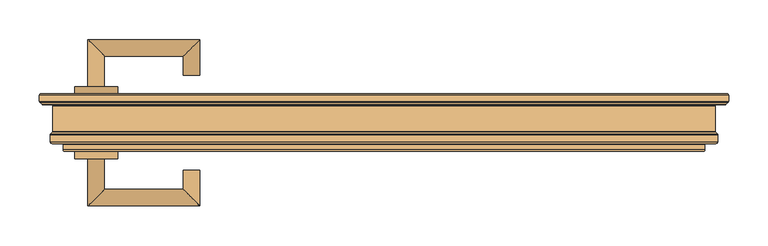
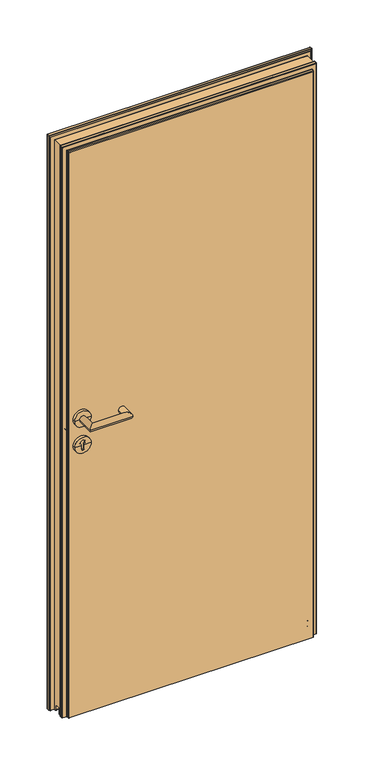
"""IFC4 building model written with IfcOpenShell, lengths in millimetres: door geometry, Peneder_HIGHLINEflat_1-flügelig_V2019 : Zargentyp - 05 - U DN."""

from ifc_helpers import new_model, si_unit, frame, origin, place, context, project, spatial, polyline, circle_curve, ellipse_curve, source, transform, mapped, element, save
from ifc_brep_helpers import plane_surface, cylinder_surface, revolved_surface, advanced_brep


def door_01702f04(model_context):
    return source(origin(), model_context, "Body", "AdvancedBrep", [
        advanced_brep(
        [(-375.5, 56.0, 1050.0), (-354.5, 56.0, 1050.0), (-375.5, -4.0, 1050.0), (-354.5, 17.0, 1050.0), (-233.5, -4.0, 1050.0), (-254.5, 17.0, 1050.0), (-233.5, 41.0, 1050.0), (-254.5, 41.0, 1050.0)],
        [
            (0, 1, circle_curve(frame((-365.0, 56.0, 1050.0), z_axis=(0.0, 1.0, 0.0), x_axis=(1.0, 0.0, 0.0)), 10.5)),
            (1, 0, circle_curve(frame((-365.0, 56.0, 1050.0), z_axis=(0.0, 1.0, 0.0), x_axis=(1.0, 0.0, 0.0)), 10.5)),
            (0, 2),
            (2, 3, ellipse_curve(frame((-365.0, 6.5, 1050.0), z_axis=(-0.7071067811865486, 0.7071067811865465, 0.0), x_axis=(0.7071067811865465, 0.7071067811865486, 0.0)), 14.8492424, 10.5)),
            (3, 1),
            (3, 2, ellipse_curve(frame((-365.0, 6.5, 1050.0), z_axis=(-0.7071067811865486, 0.7071067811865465, 0.0), x_axis=(0.7071067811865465, 0.7071067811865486, 0.0)), 14.8492424, 10.5)),
            (2, 4),
            (4, 5, ellipse_curve(frame((-244.0, 6.5, 1050.0), z_axis=(-0.7071067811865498, -0.7071067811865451, 0.0), x_axis=(-0.7071067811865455, 0.7071067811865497, 0.0)), 14.8492424, 10.5)),
            (5, 3),
            (5, 4, ellipse_curve(frame((-244.0, 6.5, 1050.0), z_axis=(-0.7071067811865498, -0.7071067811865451, 0.0), x_axis=(-0.7071067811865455, 0.7071067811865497, 0.0)), 14.8492424, 10.5)),
            (6, 7, circle_curve(frame((-244.0, 41.0, 1050.0), z_axis=(0.0, 1.0, 0.0), x_axis=(-1.0, 0.0, 0.0)), 10.5)),
            (7, 6, circle_curve(frame((-244.0, 41.0, 1050.0), z_axis=(0.0, 1.0, 0.0), x_axis=(-1.0, 0.0, 0.0)), 10.5)),
            (4, 6),
            (7, 5),
        ],
        [
            plane_surface(frame((-365.0, 56.0, 1050.0), z_axis=(0.0, 1.0, 0.0), x_axis=(0.0, 0.0, 1.0))),
            cylinder_surface(frame((-365.0, 56.0, 1050.0), z_axis=(0.0, 1.0, 0.0), x_axis=(1.0, 0.0, 0.0)), 10.5),
            cylinder_surface(frame((-365.0, 6.5, 1050.0), z_axis=(-1.0, 0.0, 0.0), x_axis=(0.0, 1.0, 0.0)), 10.5),
            plane_surface(frame((-244.0, 41.0, 1050.0), z_axis=(0.0, 1.0, 0.0), x_axis=(0.0, 0.0, 1.0))),
            cylinder_surface(frame((-244.0, 6.5, 1050.0), z_axis=(0.0, -1.0, 0.0), x_axis=(-1.0, 0.0, 0.0)), 10.5),
        ],
        [
            (0, [[1, 2]]),
            (1, [[-1, 3, 4, 5]]),
            (1, [[-2, -5, 6, -3]]),
            (2, [[-4, 7, 8, 9]]),
            (2, [[-6, -9, 10, -7]]),
            (3, [[11, 12]]),
            (4, [[-8, 13, -12, 14]]),
            (4, [[-10, -14, -11, -13]]),
        ],
    ),
        advanced_brep(
        [(-337.5, 56.0, 1050.0), (-392.5, 56.0, 1050.0), (-392.5, 65.0, 1050.0), (-337.5, 65.0, 1050.0), (-365.0, 56.0, 1050.0), (-365.0, 65.0, 1050.0)],
        [
            (0, 1, circle_curve(frame((-365.0, 56.0, 1050.0), z_axis=(0.0, 1.0, 0.0), x_axis=(-1.0, 0.0, 0.0)), 27.5)),
            (1, 2),
            (2, 3, circle_curve(frame((-365.0, 65.0, 1050.0), z_axis=(0.0, -1.0, 0.0), x_axis=(-1.0, 0.0, 0.0)), 27.5)),
            (3, 0),
            (1, 0, circle_curve(frame((-365.0, 56.0, 1050.0), z_axis=(0.0, 1.0, 0.0), x_axis=(-1.0, 0.0, 0.0)), 27.5)),
            (3, 2, circle_curve(frame((-365.0, 65.0, 1050.0), z_axis=(0.0, -1.0, 0.0), x_axis=(-1.0, 0.0, 0.0)), 27.5)),
            (4, 1),
            (0, 4),
            (2, 5),
            (5, 3),
        ],
        [
            cylinder_surface(frame((-365.0, 82.7607135, 1050.0), z_axis=(0.0, -1.0, 0.0), x_axis=(-1.0, 0.0, 0.0)), 27.5),
            plane_surface(frame((-365.0, 56.0, 1050.0), z_axis=(0.0, -1.0, 0.0), x_axis=(-1.0, 0.0, 0.0))),
            plane_surface(frame((-365.0, 65.0, 1050.0), z_axis=(0.0, 1.0, 0.0), x_axis=(-1.0, 0.0, 0.0))),
        ],
        [
            (0, [[1, 2, 3, 4]]),
            (0, [[5, -4, 6, -2]]),
            (1, [[7, -1, 8]]),
            (1, [[-8, -5, -7]]),
            (2, [[-3, 9, 10]]),
            (2, [[-6, -10, -9]]),
        ],
    ),
        advanced_brep(
        [(-337.5, 56.0, 958.0), (-392.5, 56.0, 958.0), (-392.5, 65.0, 958.0), (-337.5, 65.0, 958.0), (-360.0, 56.0, 958.0), (-360.0, 56.0, 945.8645067), (-370.0, 56.0, 945.8645067), (-370.0, 56.0, 958.0), (-370.0, 56.0, 960.8645067), (-360.0, 56.0, 960.8645067), (-365.0, 65.0, 958.0), (-370.0, 62.0, 945.8645067), (-360.0, 62.0, 945.8645067), (-360.0, 62.0, 960.8645067), (-370.0, 62.0, 960.8645067)],
        [
            (0, 1, circle_curve(frame((-365.0, 56.0, 958.0), z_axis=(0.0, 1.0, 0.0), x_axis=(-1.0, 0.0, 0.0)), 27.5)),
            (1, 2),
            (2, 3, circle_curve(frame((-365.0, 65.0, 958.0), z_axis=(0.0, -1.0, 0.0), x_axis=(-1.0, 0.0, 0.0)), 27.5)),
            (3, 0),
            (1, 0, circle_curve(frame((-365.0, 56.0, 958.0), z_axis=(0.0, 1.0, 0.0), x_axis=(-1.0, 0.0, 0.0)), 27.5)),
            (3, 2, circle_curve(frame((-365.0, 65.0, 958.0), z_axis=(0.0, -1.0, 0.0), x_axis=(-1.0, 0.0, 0.0)), 27.5)),
            (0, 4),
            (4, 5),
            (5, 6, circle_curve(frame((-365.0, 56.0, 945.8645067), z_axis=(0.0, 1.0, 0.0), x_axis=(-1.0, 0.0, 0.0)), 5.0)),
            (6, 7),
            (7, 1),
            (7, 8),
            (8, 9, circle_curve(frame((-365.0, 56.0, 967.690169), z_axis=(0.0, 1.0, 0.0), x_axis=(-1.0, 0.0, 0.0)), 8.4610677)),
            (9, 4),
            (2, 10),
            (10, 3),
            (11, 12, circle_curve(frame((-365.0, 62.0, 945.8645067), z_axis=(0.0, -1.0, 0.0), x_axis=(-1.0, 0.0, 0.0)), 5.0)),
            (12, 13),
            (13, 14, circle_curve(frame((-365.0, 62.0, 967.690169), z_axis=(0.0, -1.0, 0.0), x_axis=(-1.0, 0.0, 0.0)), 8.4610677)),
            (14, 11),
            (11, 6),
            (5, 12),
            (9, 13),
            (8, 14),
        ],
        [
            cylinder_surface(frame((-365.0, 72.1832023, 958.0), z_axis=(0.0, -1.0, 0.0), x_axis=(-1.0, 0.0, 0.0)), 27.5),
            plane_surface(frame((-365.0, 56.0, 958.0), z_axis=(0.0, -1.0, 0.0), x_axis=(-1.0, 0.0, 0.0))),
            plane_surface(frame((-365.0, 65.0, 958.0), z_axis=(0.0, 1.0, 0.0), x_axis=(-1.0, 0.0, 0.0))),
            plane_surface(frame((-370.0, 62.0, 960.8645067), z_axis=(0.0, -1.0, 0.0), x_axis=(0.0, 0.0, 1.0))),
            revolved_surface(polyline([(-370.0, 62.0, 945.8645067), (-370.0, 56.0, 945.8645067)]), (-365.0, 52.0, 945.8645067), (0.0, 1.0, 0.0)),
            plane_surface(frame((-360.0, 62.0, 960.8645067), z_axis=(-1.0, 0.0, 0.0), x_axis=(0.0, -1.0, 0.0))),
            revolved_surface(polyline([(-373.4610677, 62.0, 967.690169), (-373.4610677, 56.0, 967.690169)]), (-365.0, 52.0, 967.690169), (0.0, 1.0, 0.0)),
            plane_surface(frame((-370.0, 62.0, 945.8645067), z_axis=(1.0, 0.0, 0.0), x_axis=(0.0, -1.0, 0.0))),
        ],
        [
            (0, [[1, 2, 3, 4]]),
            (0, [[-2, 5, -4, 6]]),
            (1, [[-1, 7, 8, 9, 10, 11]]),
            (1, [[-5, -11, 12, 13, 14, -7]]),
            (2, [[-3, 15, 16]]),
            (2, [[-6, -16, -15]]),
            (3, [[17, 18, 19, 20]]),
            (4, [[-17, 21, -9, 22]]),
            (5, [[-18, -22, -8, -14, 23]]),
            (6, [[-19, -23, -13, 24]]),
            (7, [[-20, -24, -12, -10, -21]]),
        ],
    ),
        advanced_brep(
        [(-375.5, 147.0, 1050.0), (-354.5, 147.0, 1050.0), (-354.5, 186.0, 1050.0), (-375.5, 207.0, 1050.0), (-254.5, 186.0, 1050.0), (-233.5, 207.0, 1050.0), (-233.5, 162.0, 1050.0), (-254.5, 162.0, 1050.0)],
        [
            (0, 1, circle_curve(frame((-365.0, 147.0, 1050.0), z_axis=(0.0, -1.0, 0.0), x_axis=(1.0, 0.0, 0.0)), 10.5)),
            (1, 0, circle_curve(frame((-365.0, 147.0, 1050.0), z_axis=(0.0, -1.0, 0.0), x_axis=(1.0, 0.0, 0.0)), 10.5)),
            (1, 2),
            (2, 3, ellipse_curve(frame((-365.0, 196.5, 1050.0), z_axis=(-0.7071067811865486, -0.7071067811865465, 0.0), x_axis=(0.7071067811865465, -0.7071067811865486, 0.0)), 14.8492424, 10.5)),
            (3, 0),
            (3, 2, ellipse_curve(frame((-365.0, 196.5, 1050.0), z_axis=(-0.7071067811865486, -0.7071067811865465, 0.0), x_axis=(0.7071067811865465, -0.7071067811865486, 0.0)), 14.8492424, 10.5)),
            (2, 4),
            (4, 5, ellipse_curve(frame((-244.0, 196.5, 1050.0), z_axis=(-0.7071067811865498, 0.7071067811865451, 0.0), x_axis=(-0.7071067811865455, -0.7071067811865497, 0.0)), 14.8492424, 10.5)),
            (5, 3),
            (5, 4, ellipse_curve(frame((-244.0, 196.5, 1050.0), z_axis=(-0.7071067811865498, 0.7071067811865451, 0.0), x_axis=(-0.7071067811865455, -0.7071067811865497, 0.0)), 14.8492424, 10.5)),
            (6, 7, circle_curve(frame((-244.0, 162.0, 1050.0), z_axis=(0.0, -1.0, 0.0), x_axis=(-1.0, 0.0, 0.0)), 10.5)),
            (7, 6, circle_curve(frame((-244.0, 162.0, 1050.0), z_axis=(0.0, -1.0, 0.0), x_axis=(-1.0, 0.0, 0.0)), 10.5)),
            (4, 7),
            (6, 5),
        ],
        [
            plane_surface(frame((-365.0, 147.0, 1050.0), z_axis=(0.0, -1.0, 0.0), x_axis=(0.0, 0.0, 1.0))),
            cylinder_surface(frame((-365.0, 147.0, 1050.0), z_axis=(0.0, -1.0, 0.0), x_axis=(1.0, 0.0, 0.0)), 10.5),
            cylinder_surface(frame((-365.0, 196.5, 1050.0), z_axis=(-1.0, 0.0, 0.0), x_axis=(0.0, -1.0, 0.0)), 10.5),
            plane_surface(frame((-244.0, 162.0, 1050.0), z_axis=(0.0, -1.0, 0.0), x_axis=(0.0, 0.0, 1.0))),
            cylinder_surface(frame((-244.0, 196.5, 1050.0), z_axis=(0.0, 1.0, 0.0), x_axis=(-1.0, 0.0, 0.0)), 10.5),
        ],
        [
            (0, [[1, 2]]),
            (1, [[3, 4, 5, -2]]),
            (1, [[-5, 6, -3, -1]]),
            (2, [[7, 8, 9, -4]]),
            (2, [[-9, 10, -7, -6]]),
            (3, [[11, 12]]),
            (4, [[13, -11, 14, -8]]),
            (4, [[-14, -12, -13, -10]]),
        ],
    ),
        advanced_brep(
        [(-337.5, 147.0, 1050.0), (-337.5, 138.0, 1050.0), (-392.5, 138.0, 1050.0), (-392.5, 147.0, 1050.0), (-365.0, 147.0, 1050.0), (-365.0, 138.0, 1050.0)],
        [
            (0, 1),
            (1, 2, circle_curve(frame((-365.0, 138.0, 1050.0), z_axis=(0.0, 1.0, 0.0), x_axis=(-1.0, 0.0, 0.0)), 27.5)),
            (2, 3),
            (3, 0, circle_curve(frame((-365.0, 147.0, 1050.0), z_axis=(0.0, -1.0, 0.0), x_axis=(-1.0, 0.0, 0.0)), 27.5)),
            (2, 1, circle_curve(frame((-365.0, 138.0, 1050.0), z_axis=(0.0, 1.0, 0.0), x_axis=(-1.0, 0.0, 0.0)), 27.5)),
            (0, 3, circle_curve(frame((-365.0, 147.0, 1050.0), z_axis=(0.0, -1.0, 0.0), x_axis=(-1.0, 0.0, 0.0)), 27.5)),
            (4, 0),
            (3, 4),
            (1, 5),
            (5, 2),
        ],
        [
            cylinder_surface(frame((-365.0, 120.2392865, 1050.0), z_axis=(0.0, 1.0, 0.0), x_axis=(-1.0, 0.0, 0.0)), 27.5),
            plane_surface(frame((-365.0, 147.0, 1050.0), z_axis=(0.0, 1.0, 0.0), x_axis=(-1.0, 0.0, 0.0))),
            plane_surface(frame((-365.0, 138.0, 1050.0), z_axis=(0.0, -1.0, 0.0), x_axis=(-1.0, 0.0, 0.0))),
        ],
        [
            (0, [[1, 2, 3, 4]]),
            (0, [[-3, 5, -1, 6]]),
            (1, [[7, -4, 8]]),
            (1, [[-8, -6, -7]]),
            (2, [[9, 10, -2]]),
            (2, [[-10, -9, -5]]),
        ],
    ),
        advanced_brep(
        [(-337.5, 147.0, 958.0), (-337.5, 138.0, 958.0), (-392.5, 138.0, 958.0), (-392.5, 147.0, 958.0), (-370.0, 147.0, 958.0), (-370.0, 147.0, 945.8645067), (-360.0, 147.0, 945.8645067), (-360.0, 147.0, 958.0), (-360.0, 147.0, 960.8645067), (-370.0, 147.0, 960.8645067), (-365.0, 138.0, 958.0), (-370.0, 141.0, 945.8645067), (-370.0, 141.0, 960.8645067), (-360.0, 141.0, 960.8645067), (-360.0, 141.0, 945.8645067)],
        [
            (0, 1),
            (1, 2, circle_curve(frame((-365.0, 138.0, 958.0), z_axis=(0.0, 1.0, 0.0), x_axis=(-1.0, 0.0, 0.0)), 27.5)),
            (2, 3),
            (3, 0, circle_curve(frame((-365.0, 147.0, 958.0), z_axis=(0.0, -1.0, 0.0), x_axis=(-1.0, 0.0, 0.0)), 27.5)),
            (2, 1, circle_curve(frame((-365.0, 138.0, 958.0), z_axis=(0.0, 1.0, 0.0), x_axis=(-1.0, 0.0, 0.0)), 27.5)),
            (0, 3, circle_curve(frame((-365.0, 147.0, 958.0), z_axis=(0.0, -1.0, 0.0), x_axis=(-1.0, 0.0, 0.0)), 27.5)),
            (3, 4),
            (4, 5),
            (5, 6, circle_curve(frame((-365.0, 147.0, 945.8645067), z_axis=(0.0, -1.0, 0.0), x_axis=(-1.0, 0.0, 0.0)), 5.0)),
            (6, 7),
            (7, 0),
            (7, 8),
            (8, 9, circle_curve(frame((-365.0, 147.0, 967.690169), z_axis=(0.0, -1.0, 0.0), x_axis=(-1.0, 0.0, 0.0)), 8.4610677)),
            (9, 4),
            (1, 10),
            (10, 2),
            (11, 12),
            (12, 13, circle_curve(frame((-365.0, 141.0, 967.690169), z_axis=(0.0, 1.0, 0.0), x_axis=(-1.0, 0.0, 0.0)), 8.4610677)),
            (13, 14),
            (14, 11, circle_curve(frame((-365.0, 141.0, 945.8645067), z_axis=(0.0, 1.0, 0.0), x_axis=(-1.0, 0.0, 0.0)), 5.0)),
            (14, 6),
            (5, 11),
            (13, 8),
            (12, 9),
        ],
        [
            cylinder_surface(frame((-365.0, 130.8167977, 958.0), z_axis=(0.0, 1.0, 0.0), x_axis=(-1.0, 0.0, 0.0)), 27.5),
            plane_surface(frame((-365.0, 147.0, 958.0), z_axis=(0.0, 1.0, 0.0), x_axis=(-1.0, 0.0, 0.0))),
            plane_surface(frame((-365.0, 138.0, 958.0), z_axis=(0.0, -1.0, 0.0), x_axis=(-1.0, 0.0, 0.0))),
            plane_surface(frame((-370.0, 141.0, 960.8645067), z_axis=(0.0, 1.0, 0.0), x_axis=(0.0, 0.0, 1.0))),
            revolved_surface(polyline([(-370.0, 141.0, 945.8645067), (-370.0, 147.0, 945.8645067)]), (-365.0, 151.0, 945.8645067), (0.0, -1.0, 0.0)),
            plane_surface(frame((-360.0, 141.0, 960.8645067), z_axis=(-1.0, 0.0, 0.0), x_axis=(0.0, 1.0, 0.0))),
            revolved_surface(polyline([(-373.4610677, 141.0, 967.690169), (-373.4610677, 147.0, 967.690169)]), (-365.0, 151.0, 967.690169), (0.0, -1.0, 0.0)),
            plane_surface(frame((-370.0, 141.0, 945.8645067), z_axis=(1.0, 0.0, 0.0), x_axis=(0.0, 1.0, 0.0))),
        ],
        [
            (0, [[1, 2, 3, 4]]),
            (0, [[5, -1, 6, -3]]),
            (1, [[7, 8, 9, 10, 11, -4]]),
            (1, [[-11, 12, 13, 14, -7, -6]]),
            (2, [[15, 16, -2]]),
            (2, [[-16, -15, -5]]),
            (3, [[17, 18, 19, 20]]),
            (4, [[21, -9, 22, -20]]),
            (5, [[23, -12, -10, -21, -19]]),
            (6, [[24, -13, -23, -18]]),
            (7, [[-22, -8, -14, -24, -17]]),
        ],
    ),
        advanced_brep(
        [(405.0, 65.0, 10.0), (-405.0, 65.0, 10.0), (-407.0, 67.0, 10.0), (-407.0, 74.0, 10.0), (-408.0, 75.0, 10.0), (-421.0, 75.0, 10.0), (-423.0, 77.0, 10.0), (-423.0, 86.1715729, 10.0), (-422.4142136, 87.5857864, 10.0), (-420.2928932, 89.7071068, 10.0), (-420.0, 90.4142136, 10.0), (-420.0, 94.5, 10.0), (420.0, 94.5, 10.0), (420.0, 90.4142136, 10.0), (420.2928932, 89.7071068, 10.0), (422.4142136, 87.5857864, 10.0), (423.0, 86.1715729, 10.0), (423.0, 77.0, 10.0), (421.0, 75.0, 10.0), (408.0, 75.0, 10.0), (407.0, 74.0, 10.0), (407.0, 67.0, 10.0), (-437.0, 128.8284271, 10.0), (-437.0, 136.0, 10.0), (-435.0, 138.0, 10.0), (435.0, 138.0, 10.0), (437.0, 136.0, 10.0), (437.0, 128.8284271, 10.0), (436.4142136, 127.4142136, 10.0), (433.5857864, 124.5857864, 10.0), (432.1715729, 124.0, 10.0), (421.0, 124.0, 10.0), (420.0, 123.0, 10.0), (420.0, 119.5, 10.0), (-420.0, 119.5, 10.0), (-420.0, 123.0, 10.0), (-421.0, 124.0, 10.0), (-432.1715729, 124.0, 10.0), (-433.5857864, 124.5857864, 10.0), (-436.4142136, 127.4142136, 10.0), (405.0, 65.0, 1992.0), (-405.0, 65.0, 1992.0), (-407.0, 67.0, 1994.0), (-407.0, 74.0, 1994.0), (-408.0, 75.0, 1995.0), (408.0, 75.0, 1995.0), (421.0, 75.0, 2008.0), (-421.0, 75.0, 2008.0), (-423.0, 77.0, 2010.0), (-423.0, 86.1715729, 2010.0), (-422.4142136, 87.5857864, 2009.4142136), (-420.2928932, 89.7071068, 2007.2928932), (-420.0, 90.4142136, 2007.0), (-420.0, 123.0, 2007.0), (-420.0, 117.5, 12.0), (-420.0, 117.5, 29.5), (-420.0, 116.5, 30.5), (-420.0, 97.5, 30.5), (-420.0, 96.5, 29.5), (-420.0, 96.5, 12.0), (420.0, 96.5, 12.0), (420.0, 123.0, 2007.0), (420.0, 90.4142136, 2007.0), (420.0, 96.5, 29.5), (420.0, 97.5, 30.5), (420.0, 116.5, 30.5), (420.0, 117.5, 29.5), (420.0, 117.5, 12.0), (420.2928932, 89.7071068, 2007.2928932), (422.4142136, 87.5857864, 2009.4142136), (423.0, 86.1715729, 2010.0), (423.0, 77.0, 2010.0), (407.0, 74.0, 1994.0), (407.0, 67.0, 1994.0), (-437.0, 128.8284271, 2024.0), (-437.0, 136.0, 2024.0), (-435.0, 138.0, 2022.0), (435.0, 138.0, 2022.0), (437.0, 136.0, 2024.0), (437.0, 128.8284271, 2024.0), (436.4142136, 127.4142136, 2023.4142136), (433.5857864, 124.5857864, 2020.5857864), (432.1715729, 124.0, 2019.1715729), (-421.0, 124.0, 2008.0), (421.0, 124.0, 2008.0), (-432.1715729, 124.0, 2019.1715729), (-433.5857864, 124.5857864, 2020.5857864), (-436.4142136, 127.4142136, 2023.4142136)],
        [
            (0, 1),
            (1, 2, circle_curve(frame((-405.0, 67.0, 10.0), z_axis=(0.0, 0.0, -1.0), x_axis=(0.0, -1.0, 0.0)), 2.0)),
            (2, 3),
            (3, 4, circle_curve(frame((-408.0, 74.0, 10.0), z_axis=(0.0, 0.0, 1.0), x_axis=(1.0, 0.0, 0.0)), 1.0)),
            (4, 5),
            (5, 6, circle_curve(frame((-421.0, 77.0, 10.0), z_axis=(0.0, 0.0, -1.0), x_axis=(0.0, -1.0, 0.0)), 2.0)),
            (6, 7),
            (7, 8, circle_curve(frame((-421.0, 86.1715729, 10.0), z_axis=(0.0, 0.0, -1.0), x_axis=(-1.0, 0.0, 0.0)), 2.0)),
            (8, 9),
            (9, 10, circle_curve(frame((-421.0, 90.4142136, 10.0), z_axis=(0.0, 0.0, 1.0), x_axis=(0.7071067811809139, -0.7071067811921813, 0.0)), 1.0)),
            (10, 11),
            (11, 12),
            (12, 13),
            (13, 14, circle_curve(frame((421.0, 90.4142136, 10.0), z_axis=(0.0, 0.0, 1.0), x_axis=(-0.707106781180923, -0.7071067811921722, 0.0)), 1.0)),
            (14, 15),
            (15, 16, circle_curve(frame((421.0, 86.1715729, 10.0), z_axis=(0.0, 0.0, -1.0), x_axis=(1.0, 0.0, 0.0)), 2.0)),
            (16, 17),
            (17, 18, circle_curve(frame((421.0, 77.0, 10.0), z_axis=(0.0, 0.0, -1.0), x_axis=(0.0, -1.0, 0.0)), 2.0)),
            (18, 19),
            (19, 20, circle_curve(frame((408.0, 74.0, 10.0), z_axis=(0.0, 0.0, 1.0), x_axis=(-1.0, 0.0, 0.0)), 1.0)),
            (20, 21),
            (21, 0, circle_curve(frame((405.0, 67.0, 10.0), z_axis=(0.0, 0.0, -1.0), x_axis=(0.0, -1.0, 0.0)), 2.0)),
            (22, 23),
            (23, 24, circle_curve(frame((-435.0, 136.0, 10.0), z_axis=(0.0, 0.0, -1.0), x_axis=(-1.0, 0.0, 0.0)), 2.0)),
            (24, 25),
            (25, 26, circle_curve(frame((435.0, 136.0, 10.0), z_axis=(0.0, 0.0, -1.0), x_axis=(1.0, 0.0, 0.0)), 2.0)),
            (26, 27),
            (27, 28, circle_curve(frame((435.0, 128.8284271, 10.0), z_axis=(0.0, 0.0, -1.0), x_axis=(0.7071067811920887, -0.7071067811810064, 0.0)), 2.0)),
            (28, 29),
            (29, 30, circle_curve(frame((432.1715729, 126.0, 10.0), z_axis=(0.0, 0.0, -1.0), x_axis=(0.0, -1.0, 0.0)), 2.0)),
            (30, 31),
            (31, 32, circle_curve(frame((421.0, 123.0, 10.0), z_axis=(0.0, 0.0, 1.0), x_axis=(-1.0, 0.0, 0.0)), 1.0)),
            (32, 33),
            (33, 34),
            (34, 35),
            (35, 36, circle_curve(frame((-421.0, 123.0, 10.0), z_axis=(0.0, 0.0, 1.0), x_axis=(1.0, 0.0, 0.0)), 1.0)),
            (36, 37),
            (37, 38, circle_curve(frame((-432.1715729, 126.0, 10.0), z_axis=(0.0, 0.0, -1.0), x_axis=(0.0, -1.0, 0.0)), 2.0)),
            (38, 39),
            (39, 22, circle_curve(frame((-435.0, 128.8284271, 10.0), z_axis=(0.0, 0.0, -1.0), x_axis=(-0.7071067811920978, -0.7071067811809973, 0.0)), 2.0)),
            (0, 40),
            (40, 41),
            (41, 1),
            (41, 42, ellipse_curve(frame((-405.0, 67.0, 1992.0), z_axis=(-0.7071067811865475, 0.0, -0.7071067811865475), x_axis=(-0.7071067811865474, 0.0, 0.7071067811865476)), 2.8284271, 2.0)),
            (42, 2),
            (42, 43),
            (43, 3),
            (43, 44, ellipse_curve(frame((-408.0, 74.0, 1995.0), z_axis=(0.7071067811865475, 0.0, 0.7071067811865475), x_axis=(0.7071067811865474, 0.0, -0.7071067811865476)), 1.4142136, 1.0)),
            (44, 4),
            (44, 45),
            (45, 19),
            (18, 46),
            (46, 47),
            (47, 5),
            (47, 48, ellipse_curve(frame((-421.0, 77.0, 2008.0), z_axis=(-0.7071067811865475, 0.0, -0.7071067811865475), x_axis=(-0.7071067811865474, 0.0, 0.7071067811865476)), 2.8284271, 2.0)),
            (48, 6),
            (48, 49),
            (49, 7),
            (49, 50, ellipse_curve(frame((-421.0, 86.1715729, 2008.0), z_axis=(-0.7071067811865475, 0.0, -0.7071067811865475), x_axis=(-0.7071067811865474, 0.0, 0.7071067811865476)), 2.8284271, 2.0)),
            (50, 8),
            (50, 51),
            (51, 9),
            (51, 52, ellipse_curve(frame((-421.0, 90.4142136, 2008.0), z_axis=(0.7071067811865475, 0.0, 0.7071067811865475), x_axis=(0.7071067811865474, 0.0, -0.7071067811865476)), 1.4142136, 1.0)),
            (52, 10),
            (52, 53),
            (53, 35),
            (34, 54, circle_curve(frame((-420.0, 119.5, 12.0), z_axis=(-1.0, 0.0, 0.0), x_axis=(0.0, 1.0, 0.0)), 2.0)),
            (54, 55),
            (55, 56, circle_curve(frame((-420.0, 116.5, 29.5), z_axis=(1.0, 0.0, 0.0), x_axis=(0.0, 1.0, 0.0)), 1.0)),
            (56, 57),
            (57, 58, circle_curve(frame((-420.0, 97.5, 29.5), z_axis=(1.0, 0.0, 0.0), x_axis=(0.0, 1.0, 0.0)), 1.0)),
            (58, 59),
            (59, 11, circle_curve(frame((-420.0, 94.5, 12.0), z_axis=(-1.0, 0.0, 0.0), x_axis=(0.0, 1.0, 0.0)), 2.0)),
            (59, 60),
            (60, 12, circle_curve(frame((420.0, 94.5, 12.0), z_axis=(-1.0, 0.0, 0.0), x_axis=(0.0, 1.0, 0.0)), 2.0)),
            (61, 62),
            (62, 13),
            (60, 63),
            (63, 64, circle_curve(frame((420.0, 97.5, 29.5), z_axis=(-1.0, 0.0, 0.0), x_axis=(0.0, 1.0, 0.0)), 1.0)),
            (64, 65),
            (65, 66, circle_curve(frame((420.0, 116.5, 29.5), z_axis=(-1.0, 0.0, 0.0), x_axis=(0.0, 1.0, 0.0)), 1.0)),
            (66, 67),
            (67, 33, circle_curve(frame((420.0, 119.5, 12.0), z_axis=(1.0, 0.0, 0.0), x_axis=(0.0, 1.0, 0.0)), 2.0)),
            (32, 61),
            (62, 68, ellipse_curve(frame((421.0, 90.4142136, 2008.0), z_axis=(-0.7071067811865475, 0.0, 0.7071067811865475), x_axis=(0.7071067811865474, 0.0, 0.7071067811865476)), 1.4142136, 1.0)),
            (68, 14),
            (68, 69),
            (69, 15),
            (69, 70, ellipse_curve(frame((421.0, 86.1715729, 2008.0), z_axis=(0.7071067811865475, 0.0, -0.7071067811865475), x_axis=(-0.7071067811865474, 0.0, -0.7071067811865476)), 2.8284271, 2.0)),
            (70, 16),
            (70, 71),
            (71, 17),
            (71, 46, ellipse_curve(frame((421.0, 77.0, 2008.0), z_axis=(0.7071067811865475, 0.0, -0.7071067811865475), x_axis=(-0.7071067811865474, 0.0, -0.7071067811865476)), 2.8284271, 2.0)),
            (45, 72, ellipse_curve(frame((408.0, 74.0, 1995.0), z_axis=(-0.7071067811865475, 0.0, 0.7071067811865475), x_axis=(0.7071067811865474, 0.0, 0.7071067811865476)), 1.4142136, 1.0)),
            (72, 20),
            (72, 73),
            (73, 21),
            (73, 40, ellipse_curve(frame((405.0, 67.0, 1992.0), z_axis=(0.7071067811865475, 0.0, -0.7071067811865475), x_axis=(-0.7071067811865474, 0.0, -0.7071067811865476)), 2.8284271, 2.0)),
            (74, 75),
            (75, 23),
            (22, 74),
            (75, 76, ellipse_curve(frame((-435.0, 136.0, 2022.0), z_axis=(-0.7071067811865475, 0.0, -0.7071067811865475), x_axis=(-0.7071067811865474, 0.0, 0.7071067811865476)), 2.8284271, 2.0)),
            (76, 24),
            (76, 77),
            (77, 25),
            (77, 78, ellipse_curve(frame((435.0, 136.0, 2022.0), z_axis=(0.7071067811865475, 0.0, -0.7071067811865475), x_axis=(-0.7071067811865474, 0.0, -0.7071067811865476)), 2.8284271, 2.0)),
            (78, 26),
            (78, 79),
            (79, 27),
            (79, 80, ellipse_curve(frame((435.0, 128.8284271, 2022.0), z_axis=(0.7071067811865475, 0.0, -0.7071067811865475), x_axis=(-0.7071067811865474, 0.0, -0.7071067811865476)), 2.8284271, 2.0)),
            (80, 28),
            (80, 81),
            (81, 29),
            (81, 82, ellipse_curve(frame((432.1715729, 126.0, 2019.1715729), z_axis=(0.7071067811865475, 0.0, -0.7071067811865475), x_axis=(-0.7071067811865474, 0.0, -0.7071067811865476)), 2.8284271, 2.0)),
            (82, 30),
            (83, 84),
            (84, 31),
            (82, 85),
            (85, 37),
            (36, 83),
            (84, 61, ellipse_curve(frame((421.0, 123.0, 2008.0), z_axis=(-0.7071067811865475, 0.0, 0.7071067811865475), x_axis=(0.7071067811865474, 0.0, 0.7071067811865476)), 1.4142136, 1.0)),
            (67, 54),
            (53, 83, ellipse_curve(frame((-421.0, 123.0, 2008.0), z_axis=(0.7071067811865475, 0.0, 0.7071067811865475), x_axis=(0.7071067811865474, 0.0, -0.7071067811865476)), 1.4142136, 1.0)),
            (85, 86, ellipse_curve(frame((-432.1715729, 126.0, 2019.1715729), z_axis=(-0.7071067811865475, 0.0, -0.7071067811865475), x_axis=(-0.7071067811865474, 0.0, 0.7071067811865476)), 2.8284271, 2.0)),
            (86, 38),
            (86, 87),
            (87, 39),
            (87, 74, ellipse_curve(frame((-435.0, 128.8284271, 2022.0), z_axis=(-0.7071067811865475, 0.0, -0.7071067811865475), x_axis=(-0.7071067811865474, 0.0, 0.7071067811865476)), 2.8284271, 2.0)),
            (66, 55),
            (65, 56),
            (64, 57),
            (63, 58),
            (78, 75),
            (74, 79),
            (73, 42),
            (87, 80),
            (86, 81),
            (53, 61),
            (52, 62),
            (51, 68),
            (50, 69),
            (49, 70),
            (48, 71),
            (43, 72),
        ],
        [
            plane_surface(frame((437.0, 65.0, 10.0), z_axis=(0.0, 0.0, -1.0), x_axis=(-1.0, 0.0, 0.0))),
            plane_surface(frame((-437.0, 65.0, 2024.0), z_axis=(0.0, -1.0, 0.0), x_axis=(0.0, 0.0, -1.0))),
            cylinder_surface(frame((-405.0, 67.0, 0.0), z_axis=(0.0, 0.0, 1.0), x_axis=(0.0, -1.0, 0.0)), 2.0),
            plane_surface(frame((-407.0, 74.0, 0.0), z_axis=(-1.0, 0.0, 0.0), x_axis=(0.0, 0.0, 1.0))),
            revolved_surface(polyline([(-407.0, 74.0, 10.0), (-407.0, 74.0, 1996.0000000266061)]), (-408.0, 74.0, 0.0), (0.0, 0.0, -1.0)),
            plane_surface(frame((-421.0, 75.0, 0.0), z_axis=(0.0, -1.0, 0.0), x_axis=(0.0, 0.0, 1.0))),
            cylinder_surface(frame((-421.0, 77.0, 0.0), z_axis=(0.0, 0.0, 1.0), x_axis=(0.0, -1.0, 0.0)), 2.0),
            plane_surface(frame((-423.0, 86.1715729, 0.0), z_axis=(-1.0, 0.0, 0.0), x_axis=(0.0, 0.0, 1.0))),
            cylinder_surface(frame((-421.0, 86.1715729, 0.0), z_axis=(0.0, 0.0, 1.0), x_axis=(-1.0, 0.0, 0.0)), 2.0),
            plane_surface(frame((-420.2928932, 89.7071068, 0.0), z_axis=(-0.7071067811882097, 0.7071067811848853, 0.0), x_axis=(0.0, 0.0, 1.0))),
            revolved_surface(polyline([(-420.2928932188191, 89.70710681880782, 10.0), (-420.2928932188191, 89.70710681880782, 2009.0000000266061)]), (-421.0, 90.4142136, 0.0), (0.0, 0.0, -1.0)),
            plane_surface(frame((-420.0, 123.0, 0.0), z_axis=(-1.0, 0.0, 0.0), x_axis=(0.0, 0.0, 1.0))),
            cylinder_surface(frame((437.0, 94.5, 12.0), z_axis=(-1.0, 0.0, 0.0), x_axis=(0.0, 1.0, 0.0)), 2.0),
            plane_surface(frame((420.0, 123.0, 2007.0), z_axis=(1.0, 0.0, 0.0), x_axis=(0.0, 0.0, -1.0))),
            revolved_surface(polyline([(420.2928932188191, 89.70710681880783, 2009.0000000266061), (420.2928932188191, 89.70710681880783, 9.99999999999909)]), (421.0, 90.4142136, 2024.0), (0.0, 0.0, 1.0000000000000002)),
            plane_surface(frame((420.2928932, 89.7071068, 2007.2928932), z_axis=(0.7071067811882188, 0.7071067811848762, 0.0), x_axis=(0.0, 0.0, -1.0))),
            cylinder_surface(frame((421.0, 86.1715729, 2024.0), z_axis=(0.0, 0.0, -1.0), x_axis=(1.0, 0.0, 0.0)), 2.0),
            plane_surface(frame((423.0, 86.1715729, 2010.0), z_axis=(1.0, 0.0, 0.0), x_axis=(0.0, 0.0, -1.0))),
            cylinder_surface(frame((421.0, 77.0, 2024.0), z_axis=(0.0, 0.0, -1.0), x_axis=(0.0, -1.0, 0.0)), 2.0),
            revolved_surface(polyline([(407.0, 74.0, 1996.0000000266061), (407.0, 74.0, 10.0)]), (408.0, 74.0, 2024.0), (0.0, 0.0, 1.0)),
            plane_surface(frame((407.0, 74.0, 1994.0), z_axis=(1.0, 0.0, 0.0), x_axis=(0.0, 0.0, -1.0))),
            cylinder_surface(frame((405.0, 67.0, 2024.0), z_axis=(0.0, 0.0, -1.0), x_axis=(0.0, -1.0, 0.0)), 2.0),
            plane_surface(frame((-437.0, 138.0, 2024.0), z_axis=(-1.0, 0.0, 0.0), x_axis=(0.0, 0.0, -1.0))),
            cylinder_surface(frame((-435.0, 136.0, 0.0), z_axis=(0.0, 0.0, 1.0), x_axis=(-1.0, 0.0, 0.0)), 2.0),
            plane_surface(frame((437.0, 138.0, 2024.0), z_axis=(0.0, 1.0, 0.0), x_axis=(0.0, 0.0, -1.0))),
            cylinder_surface(frame((435.0, 136.0, 2024.0), z_axis=(0.0, 0.0, -1.0), x_axis=(1.0, 0.0, 0.0)), 2.0),
            plane_surface(frame((437.0, 65.0, 2024.0), z_axis=(1.0, 0.0, 0.0), x_axis=(0.0, 0.0, -1.0))),
            cylinder_surface(frame((435.0, 128.8284271, 2024.0), z_axis=(0.0, 0.0, -1.0), x_axis=(0.7071067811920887, -0.7071067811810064, 0.0)), 2.0),
            plane_surface(frame((436.4142136, 127.4142136, 2023.4142136), z_axis=(0.7071067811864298, -0.7071067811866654, 0.0), x_axis=(0.0, 0.0, -1.0))),
            cylinder_surface(frame((432.1715729, 126.0, 2024.0), z_axis=(0.0, 0.0, -1.0), x_axis=(0.0, -1.0, 0.0)), 2.0),
            plane_surface(frame((-432.1715729, 124.0, 0.0), z_axis=(0.0, -1.0, 0.0), x_axis=(0.0, 0.0, 1.0))),
            revolved_surface(polyline([(420.0, 123.0, 2009.0000000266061), (420.0, 123.0, 10.0)]), (421.0, 123.0, 2024.0), (0.0, 0.0, 1.0)),
            cylinder_surface(frame((437.0, 119.5, 12.0), z_axis=(-1.0, 0.0, 0.0), x_axis=(0.0, 1.0, 0.0)), 2.0),
            revolved_surface(polyline([(-420.0, 123.0, 10.0), (-420.0, 123.0, 2009.0000000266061)]), (-421.0, 123.0, 0.0), (0.0, 0.0, -1.0)),
            cylinder_surface(frame((-432.1715729, 126.0, 0.0), z_axis=(0.0, 0.0, 1.0), x_axis=(0.0, -1.0, 0.0)), 2.0),
            plane_surface(frame((-436.4142136, 127.4142136, 0.0), z_axis=(-0.7071067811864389, -0.7071067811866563, 0.0), x_axis=(0.0, 0.0, 1.0))),
            cylinder_surface(frame((-435.0, 128.8284271, 0.0), z_axis=(0.0, 0.0, 1.0000000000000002), x_axis=(-0.7071067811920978, -0.7071067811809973, 0.0)), 2.0),
            plane_surface(frame((437.0, 117.5, 12.0), z_axis=(0.0, -1.0, 0.0), x_axis=(-1.0, 0.0, 0.0))),
            revolved_surface(polyline([(420.0, 117.5, 29.5), (-420.0, 117.5, 29.5)]), (437.0, 116.5, 29.5), (1.0, 0.0, 0.0)),
            plane_surface(frame((437.0, 116.5, 30.5), z_axis=(0.0, 0.0, -1.0), x_axis=(-1.0, 0.0, 0.0))),
            revolved_surface(polyline([(420.0, 98.5, 29.5), (-420.0, 98.5, 29.5)]), (437.0, 97.5, 29.5), (1.0, 0.0, 0.0)),
            plane_surface(frame((437.0, 96.5, 29.5), z_axis=(0.0, 1.0, 0.0), x_axis=(-1.0, 0.0, 0.0))),
            plane_surface(frame((437.0, 65.0, 2024.0), z_axis=(0.0, 0.0, 1.0), x_axis=(1.0, 0.0, 0.0))),
            cylinder_surface(frame((-437.0, 67.0, 1992.0), z_axis=(1.0, 0.0, 0.0), x_axis=(0.0, -1.0, 0.0)), 2.0),
            cylinder_surface(frame((-437.0, 136.0, 2022.0), z_axis=(1.0, 0.0, 0.0), x_axis=(0.0, 0.0, 1.0)), 2.0),
            cylinder_surface(frame((-437.0, 128.8284271, 2022.0), z_axis=(1.0, 0.0, 0.0), x_axis=(0.0, -0.7071067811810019, 0.7071067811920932)), 2.0),
            plane_surface(frame((-436.4142136, 127.4142136, 2023.4142136), z_axis=(0.0, -0.7071067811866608, 0.7071067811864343), x_axis=(1.0, 0.0, 0.0))),
            cylinder_surface(frame((-437.0, 126.0, 2019.1715729), z_axis=(1.0, 0.0, 0.0), x_axis=(0.0, -1.0, 0.0)), 2.0),
            revolved_surface(polyline([(-422.00000002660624, 123.0, 2007.0), (422.00000002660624, 123.0, 2007.0)]), (-437.0, 123.0, 2008.0), (-1.0, 0.0, 0.0)),
            plane_surface(frame((-420.0, 123.0, 2007.0), z_axis=(0.0, 0.0, 1.0), x_axis=(1.0, 0.0, 0.0))),
            revolved_surface(polyline([(-422.00000002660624, 89.70710681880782, 2007.292893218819), (422.00000002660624, 89.70710681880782, 2007.292893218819)]), (-437.0, 90.4142136, 2008.0), (-1.0, 0.0, 0.0)),
            plane_surface(frame((-420.2928932, 89.7071068, 2007.2928932), z_axis=(0.0, 0.7071067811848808, 0.7071067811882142), x_axis=(1.0, 0.0, 0.0))),
            cylinder_surface(frame((-437.0, 86.1715729, 2008.0), z_axis=(1.0, 0.0, 0.0), x_axis=(0.0, 0.0, 1.0)), 2.0),
            plane_surface(frame((-423.0, 86.1715729, 2010.0), z_axis=(0.0, 0.0, 1.0), x_axis=(1.0, 0.0, 0.0))),
            cylinder_surface(frame((-437.0, 77.0, 2008.0), z_axis=(1.0, 0.0, 0.0), x_axis=(0.0, -1.0, 0.0)), 2.0),
            revolved_surface(polyline([(-409.00000002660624, 74.0, 1994.0), (409.00000002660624, 74.0, 1994.0)]), (-437.0, 74.0, 1995.0), (-1.0, 0.0, 0.0)),
            plane_surface(frame((-407.0, 74.0, 1994.0), z_axis=(0.0, 0.0, 1.0), x_axis=(1.0, 0.0, 0.0))),
        ],
        [
            (0, [[1, 2, 3, 4, 5, 6, 7, 8, 9, 10, 11, 12, 13, 14, 15, 16, 17, 18, 19, 20, 21, 22]]),
            (0, [[23, 24, 25, 26, 27, 28, 29, 30, 31, 32, 33, 34, 35, 36, 37, 38, 39, 40]]),
            (1, [[-1, 41, 42, 43]]),
            (2, [[44, 45, -2, -43]]),
            (3, [[46, 47, -3, -45]]),
            (4, [[48, 49, -4, -47]]),
            (5, [[50, 51, -19, 52, 53, 54, -5, -49]]),
            (6, [[55, 56, -6, -54]]),
            (7, [[57, 58, -7, -56]]),
            (8, [[59, 60, -8, -58]]),
            (9, [[61, 62, -9, -60]]),
            (10, [[63, 64, -10, -62]]),
            (11, [[65, 66, -35, 67, 68, 69, 70, 71, 72, 73, -11, -64]]),
            (12, [[74, 75, -12, -73]]),
            (13, [[76, 77, -13, -75, 78, 79, 80, 81, 82, 83, -33, 84]]),
            (14, [[85, 86, -14, -77]]),
            (15, [[87, 88, -15, -86]]),
            (16, [[89, 90, -16, -88]]),
            (17, [[91, 92, -17, -90]]),
            (18, [[93, -52, -18, -92]]),
            (19, [[94, 95, -20, -51]]),
            (20, [[96, 97, -21, -95]]),
            (21, [[98, -41, -22, -97]]),
            (22, [[99, 100, -23, 101]]),
            (23, [[102, 103, -24, -100]]),
            (24, [[-25, -103, 104, 105]]),
            (25, [[106, 107, -26, -105]]),
            (26, [[108, 109, -27, -107]]),
            (27, [[110, 111, -28, -109]]),
            (28, [[112, 113, -29, -111]]),
            (29, [[114, 115, -30, -113]]),
            (30, [[116, 117, -31, -115, 118, 119, -37, 120]]),
            (31, [[121, -84, -32, -117]]),
            (32, [[122, -67, -34, -83]]),
            (33, [[123, -120, -36, -66]]),
            (34, [[124, 125, -38, -119]]),
            (35, [[126, 127, -39, -125]]),
            (36, [[128, -101, -40, -127]]),
            (37, [[129, -68, -122, -82]]),
            (38, [[130, -69, -129, -81]]),
            (39, [[131, -70, -130, -80]]),
            (40, [[132, -71, -131, -79]]),
            (41, [[-74, -72, -132, -78]]),
            (42, [[-108, 133, -99, 134]]),
            (43, [[-44, -42, -98, 135]]),
            (44, [[-102, -133, -106, -104]]),
            (45, [[-128, 136, -110, -134]]),
            (46, [[-126, 137, -112, -136]]),
            (47, [[-124, -118, -114, -137]]),
            (48, [[-116, -123, 138, -121]]),
            (49, [[-65, 139, -76, -138]]),
            (50, [[-63, 140, -85, -139]]),
            (51, [[-61, 141, -87, -140]]),
            (52, [[-59, 142, -89, -141]]),
            (53, [[-57, 143, -91, -142]]),
            (54, [[-55, -53, -93, -143]]),
            (55, [[-50, -48, 144, -94]]),
            (56, [[-46, -135, -96, -144]]),
        ],
    ),
    ])


if __name__ == "__main__":
    model = new_model("IFC4")
    model_context = context("Model", 3, world=origin())
    ifc_project = project(units=[si_unit("LENGTHUNIT", "METRE", prefix="MILLI")], contexts=[model_context])
    site = spatial("IfcSite", under=ifc_project)
    building = spatial("IfcBuilding", under=site)
    placement = place(None, origin())
    door_shape = door_01702f04(model_context)
    element("IfcDoor", 1, ObjectType="Peneder_HIGHLINEflat_1-flügelig_V2019 : Zargentyp - 05 - U DN", at=placement, inside=building, context=model_context, shape_type="MappedRepresentation", body=[
        mapped(door_shape, transform((0.0, 0.0, 0.0), x_axis=(1.0, 0.0, 0.0), y_axis=(0.0, 1.0, 0.0), z_axis=(0.0, 0.0, 1.0))),
    ])
    save(model, "model.ifc")
